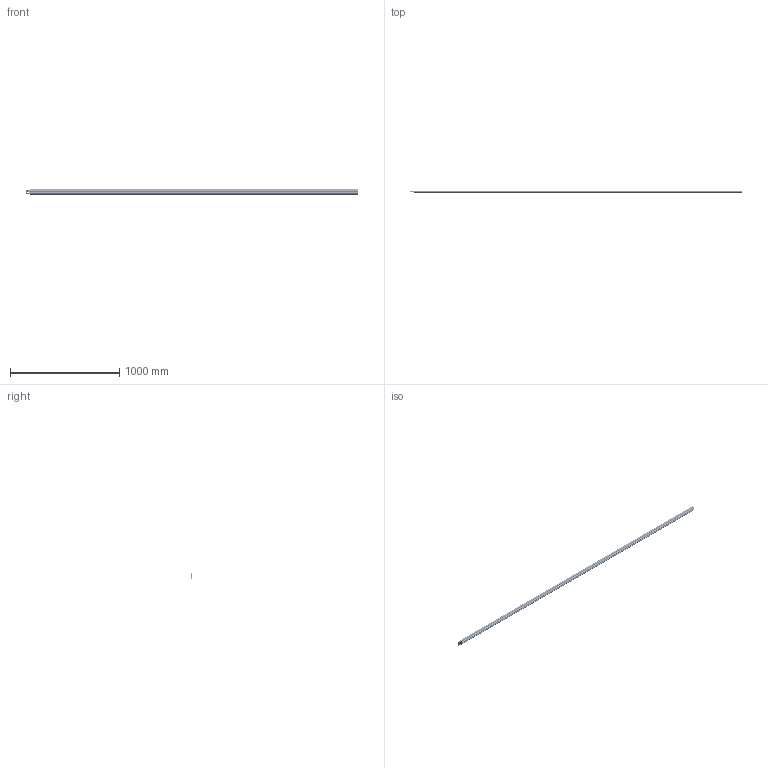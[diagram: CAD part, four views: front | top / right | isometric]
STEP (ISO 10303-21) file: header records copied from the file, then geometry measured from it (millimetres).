
FILE_DESCRIPTION(('CATIA V5 STEP Exchange'),'2;1');
FILE_NAME('X:\CODICI MOVEX\3D per clienti\3D definitivi\Part 300\P35802_01.stp','2016-09-14T13:43:41+00:00',('none'),('none'),'Version 5-6 Release 2012','CATIA V5 STEP AP203','none');
FILE_SCHEMA(('CONFIG_CONTROL_DESIGN'));
Length unit declared in the file: millimetre
Products named in the file (2): P35802_01; Modulo
Assembly tree (54 placements, depth 3):
  P35802_01
    #58
    Modulo  x31
      #1917
      #15626
      #28557
      #28868
Bounding box: 3036.91 x 22.57 x 47 mm (x, y, z)
Volume: 1496445.3 mm3; surface area: 1228229.7 mm2
Topology: 683 solids, 683 shells, 29942 faces, 79466 edges, 50890 vertices
Faces by surface type: cylinder 10568, plane 9950, torus 3100, revolution 2480, bspline 1984, cone 1736, sphere 124
Entity records: 29737 total; most frequent: CARTESIAN_POINT 9334, ORIENTED_EDGE 4740, DIRECTION 3244, EDGE_CURVE 2370, VERTEX_POINT 1520, AXIS2_PLACEMENT_3D 1471, EDGE_LOOP 888, VECTOR 880
